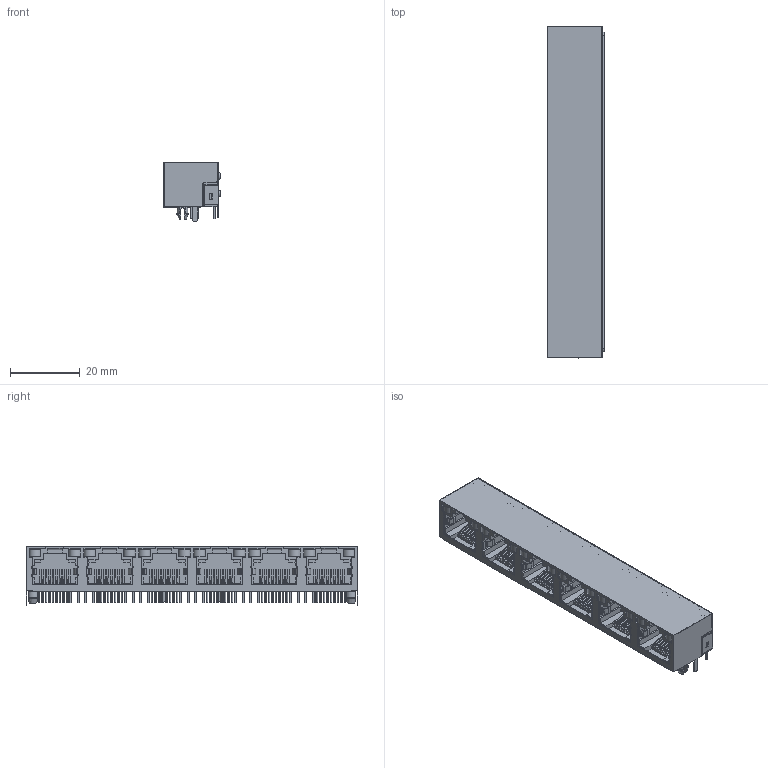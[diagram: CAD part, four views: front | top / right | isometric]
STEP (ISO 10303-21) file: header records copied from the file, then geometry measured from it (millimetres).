
FILE_DESCRIPTION((''),'2;1');
FILE_NAME('DGKYD561688AB1A1D9Y1022_ASM','2022-08-19T15:49:16',('Administrator'),(''),'CREO PARAMETRIC BY PTC INC, 2018400','CREO PARAMETRIC BY PTC INC, 2018400','');
FILE_SCHEMA(('CONFIG_CONTROL_DESIGN'));
Products named in the file (1): DGKYD561688AB1A1D9Y1022_ASM
Bounding box: 16.29 x 95.25 x 17.18 mm (x, y, z)
Volume: 9238 mm3; surface area: 24563 mm2
Topology: 1 solids, 1 shells, 3350 faces, 9362 edges, 5660 vertices
Faces by surface type: plane 2278, cylinder 536, torus 528, cone 4, bspline 4
Entity records: 104821 total; most frequent: CARTESIAN_POINT 20320, ORIENTED_EDGE 18068, DIRECTION 16935, EDGE_CURVE 9034, VECTOR 7145, LINE 7145, VERTEX_POINT 5660, AXIS2_PLACEMENT_3D 4895
